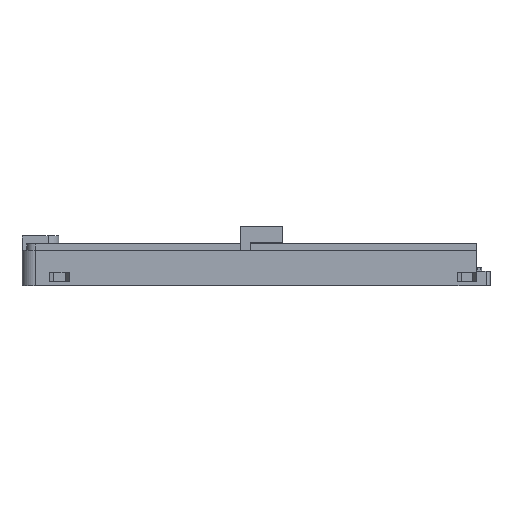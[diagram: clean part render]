
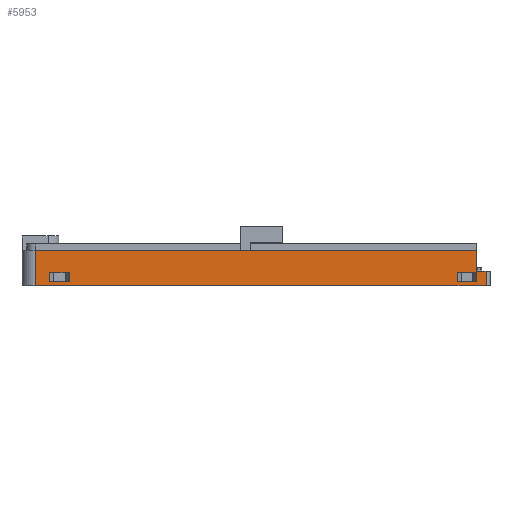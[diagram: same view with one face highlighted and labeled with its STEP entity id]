
A CAD part, left-side view. The second image highlights one B-rep face of the part: STEP entity #5953.
In plain terms, the highlighted planar face has unit normal (-1, 0, 0).
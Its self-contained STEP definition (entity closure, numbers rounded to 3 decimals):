
#2995 = VERTEX_POINT('',#2996);
#2996 = CARTESIAN_POINT('',(-3.,-129.8,-2.7));
#3004 = EDGE_CURVE('',#3005,#2995,#3007,.T.);
#3005 = VERTEX_POINT('',#3006);
#3006 = CARTESIAN_POINT('',(-3.,-132.8,-2.7));
#3007 = LINE('',#3008,#3009);
#3008 = CARTESIAN_POINT('',(-3.,-102.1,-2.7));
#3009 = VECTOR('',#3010,1.);
#3010 = DIRECTION('',(0.,1.,0.));
#5641 = EDGE_CURVE('',#5642,#2995,#5644,.T.);
#5642 = VERTEX_POINT('',#5643);
#5643 = CARTESIAN_POINT('',(-3.,-129.8,3.6));
#5644 = LINE('',#5645,#5646);
#5645 = CARTESIAN_POINT('',(-3.,-129.8,-2.25));
#5646 = VECTOR('',#5647,1.);
#5647 = DIRECTION('',(0.,0.,-1.));
#5933 = EDGE_CURVE('',#5934,#3005,#5936,.T.);
#5934 = VERTEX_POINT('',#5935);
#5935 = CARTESIAN_POINT('',(-3.,-132.8,-7.2));
#5936 = LINE('',#5937,#5938);
#5937 = CARTESIAN_POINT('',(-3.,-132.8,-7.2));
#5938 = VECTOR('',#5939,1.);
#5939 = DIRECTION('',(0.,0.,1.));
#5953 = ADVANCED_FACE('',(#5954,#5981,#6015),#6049,.T.);
#5954 = FACE_BOUND('',#5955,.T.);
#5955 = EDGE_LOOP('',(#5956,#5957,#5965,#5973,#5979,#5980));
#5956 = ORIENTED_EDGE('',*,*,#5641,.F.);
#5957 = ORIENTED_EDGE('',*,*,#5958,.T.);
#5958 = EDGE_CURVE('',#5642,#5959,#5961,.T.);
#5959 = VERTEX_POINT('',#5960);
#5960 = CARTESIAN_POINT('',(-3.,4.4,3.6));
#5961 = LINE('',#5962,#5963);
#5962 = CARTESIAN_POINT('',(-3.,-130.,3.6));
#5963 = VECTOR('',#5964,1.);
#5964 = DIRECTION('',(0.,1.,0.));
#5965 = ORIENTED_EDGE('',*,*,#5966,.F.);
#5966 = EDGE_CURVE('',#5967,#5959,#5969,.T.);
#5967 = VERTEX_POINT('',#5968);
#5968 = CARTESIAN_POINT('',(-3.,4.4,-7.2));
#5969 = LINE('',#5970,#5971);
#5970 = CARTESIAN_POINT('',(-3.,4.4,-7.2));
#5971 = VECTOR('',#5972,1.);
#5972 = DIRECTION('',(0.,0.,1.));
#5973 = ORIENTED_EDGE('',*,*,#5974,.F.);
#5974 = EDGE_CURVE('',#5934,#5967,#5975,.T.);
#5975 = LINE('',#5976,#5977);
#5976 = CARTESIAN_POINT('',(-3.,-130.,-7.2));
#5977 = VECTOR('',#5978,1.);
#5978 = DIRECTION('',(0.,1.,0.));
#5979 = ORIENTED_EDGE('',*,*,#5933,.T.);
#5980 = ORIENTED_EDGE('',*,*,#3004,.T.);
#5981 = FACE_BOUND('',#5982,.T.);
#5982 = EDGE_LOOP('',(#5983,#5993,#6001,#6009));
#5983 = ORIENTED_EDGE('',*,*,#5984,.F.);
#5984 = EDGE_CURVE('',#5985,#5987,#5989,.T.);
#5985 = VERTEX_POINT('',#5986);
#5986 = CARTESIAN_POINT('',(-3.,-0.05,-3.2));
#5987 = VERTEX_POINT('',#5988);
#5988 = CARTESIAN_POINT('',(-3.,-0.05,-6.));
#5989 = LINE('',#5990,#5991);
#5990 = CARTESIAN_POINT('',(-3.,-0.05,-3.9));
#5991 = VECTOR('',#5992,1.);
#5992 = DIRECTION('',(0.,0.,-1.));
#5993 = ORIENTED_EDGE('',*,*,#5994,.F.);
#5994 = EDGE_CURVE('',#5995,#5985,#5997,.T.);
#5995 = VERTEX_POINT('',#5996);
#5996 = CARTESIAN_POINT('',(-3.,-5.95,-3.2));
#5997 = LINE('',#5998,#5999);
#5998 = CARTESIAN_POINT('',(-3.,-33.6,-3.2));
#5999 = VECTOR('',#6000,1.);
#6000 = DIRECTION('',(0.,1.,0.));
#6001 = ORIENTED_EDGE('',*,*,#6002,.T.);
#6002 = EDGE_CURVE('',#5995,#6003,#6005,.T.);
#6003 = VERTEX_POINT('',#6004);
#6004 = CARTESIAN_POINT('',(-3.,-5.95,-6.));
#6005 = LINE('',#6006,#6007);
#6006 = CARTESIAN_POINT('',(-3.,-5.95,-3.9));
#6007 = VECTOR('',#6008,1.);
#6008 = DIRECTION('',(0.,0.,-1.));
#6009 = ORIENTED_EDGE('',*,*,#6010,.F.);
#6010 = EDGE_CURVE('',#5987,#6003,#6011,.T.);
#6011 = LINE('',#6012,#6013);
#6012 = CARTESIAN_POINT('',(-3.,-33.6,-6.));
#6013 = VECTOR('',#6014,1.);
#6014 = DIRECTION('',(0.,-1.,0.));
#6015 = FACE_BOUND('',#6016,.T.);
#6016 = EDGE_LOOP('',(#6017,#6027,#6035,#6043));
#6017 = ORIENTED_EDGE('',*,*,#6018,.F.);
#6018 = EDGE_CURVE('',#6019,#6021,#6023,.T.);
#6019 = VERTEX_POINT('',#6020);
#6020 = CARTESIAN_POINT('',(-3.,-124.025,-3.2));
#6021 = VERTEX_POINT('',#6022);
#6022 = CARTESIAN_POINT('',(-3.,-124.025,-6.));
#6023 = LINE('',#6024,#6025);
#6024 = CARTESIAN_POINT('',(-3.,-124.025,-3.9));
#6025 = VECTOR('',#6026,1.);
#6026 = DIRECTION('',(0.,0.,-1.));
#6027 = ORIENTED_EDGE('',*,*,#6028,.F.);
#6028 = EDGE_CURVE('',#6029,#6019,#6031,.T.);
#6029 = VERTEX_POINT('',#6030);
#6030 = CARTESIAN_POINT('',(-3.,-129.925,-3.2));
#6031 = LINE('',#6032,#6033);
#6032 = CARTESIAN_POINT('',(-3.,-95.588,-3.2));
#6033 = VECTOR('',#6034,1.);
#6034 = DIRECTION('',(0.,1.,0.));
#6035 = ORIENTED_EDGE('',*,*,#6036,.T.);
#6036 = EDGE_CURVE('',#6029,#6037,#6039,.T.);
#6037 = VERTEX_POINT('',#6038);
#6038 = CARTESIAN_POINT('',(-3.,-129.925,-6.));
#6039 = LINE('',#6040,#6041);
#6040 = CARTESIAN_POINT('',(-3.,-129.925,-3.9));
#6041 = VECTOR('',#6042,1.);
#6042 = DIRECTION('',(0.,0.,-1.));
#6043 = ORIENTED_EDGE('',*,*,#6044,.F.);
#6044 = EDGE_CURVE('',#6021,#6037,#6045,.T.);
#6045 = LINE('',#6046,#6047);
#6046 = CARTESIAN_POINT('',(-3.,-95.588,-6.));
#6047 = VECTOR('',#6048,1.);
#6048 = DIRECTION('',(0.,-1.,0.));
#6049 = PLANE('',#6050);
#6050 = AXIS2_PLACEMENT_3D('',#6051,#6052,#6053);
#6051 = CARTESIAN_POINT('',(-3.,-64.2,-1.8));
#6052 = DIRECTION('',(-1.,-0.,-0.));
#6053 = DIRECTION('',(0.,0.,-1.));
